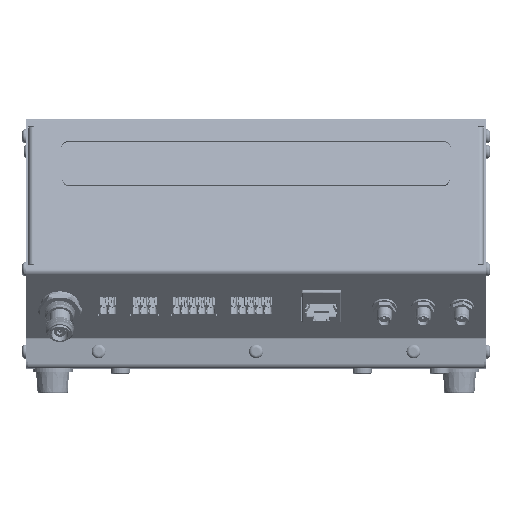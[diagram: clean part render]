
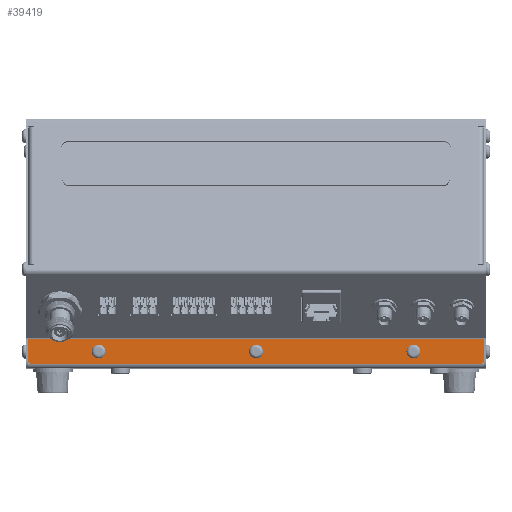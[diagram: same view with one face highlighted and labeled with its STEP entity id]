
A CAD part, top view. The second image highlights one B-rep face of the part: STEP entity #39419.
In plain terms, the highlighted planar face has unit normal (0, 0, 1) as drawn and (1, 0, 0) by its records, which use the part's own axes.
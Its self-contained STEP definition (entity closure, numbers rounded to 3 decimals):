
#638 = EDGE_CURVE ( 'NONE', #5292, #113440, #92095, .T. ) ;
#1989 = EDGE_CURVE ( 'NONE', #106841, #39961, #5558, .T. ) ;
#3515 = AXIS2_PLACEMENT_3D ( 'NONE', #82680, #122074, #72983 ) ;
#3840 = EDGE_LOOP ( 'NONE', ( #40883, #121966, #103865, #81284, #32421, #113417 ) ) ;
#4314 = LINE ( 'NONE', #43752, #8060 ) ;
#5292 = VERTEX_POINT ( 'NONE', #119694 ) ;
#5558 = CIRCLE ( 'NONE', #3515, 1.6 ) ;
#7956 = CARTESIAN_POINT ( 'NONE',  ( -12., 8., 65. ) ) ;
#8060 = VECTOR ( 'NONE', #32152, 1000. ) ;
#8322 = EDGE_CURVE ( 'NONE', #81340, #77313, #43477, .T. ) ;
#9600 = DIRECTION ( 'NONE',  ( 0., -1., 0. ) ) ;
#10329 = EDGE_CURVE ( 'NONE', #115459, #89140, #115977, .T. ) ;
#15088 = EDGE_LOOP ( 'NONE', ( #111130, #92071 ) ) ;
#15221 = CARTESIAN_POINT ( 'NONE',  ( -12., 13.118, -94. ) ) ;
#15253 = CARTESIAN_POINT ( 'NONE',  ( -12., 8., 0. ) ) ;
#15655 = EDGE_CURVE ( 'NONE', #38656, #57188, #126862, .T. ) ;
#15953 = CARTESIAN_POINT ( 'NONE',  ( -12., 13.118, 94. ) ) ;
#18257 = DIRECTION ( 'NONE',  ( 0., -1., 0. ) ) ;
#18678 = FACE_BOUND ( 'NONE', #35944, .T. ) ;
#21301 = CARTESIAN_POINT ( 'NONE',  ( -12., 9.6, 65. ) ) ;
#22052 = EDGE_CURVE ( 'NONE', #39961, #106841, #47181, .T. ) ;
#22268 = DIRECTION ( 'NONE',  ( 0., -1., 0. ) ) ;
#24895 = EDGE_CURVE ( 'NONE', #38656, #73248, #4314, .T. ) ;
#25048 = CARTESIAN_POINT ( 'NONE',  ( -12., 13.118, -94. ) ) ;
#28073 = DIRECTION ( 'NONE',  ( 0., 1., 0. ) ) ;
#28351 = FACE_BOUND ( 'NONE', #15088, .T. ) ;
#28784 = AXIS2_PLACEMENT_3D ( 'NONE', #75777, #55781, #18257 ) ;
#31406 = CARTESIAN_POINT ( 'NONE',  ( -12., 9.6, 0. ) ) ;
#32152 = DIRECTION ( 'NONE',  ( 0., 0., 1. ) ) ;
#32236 = AXIS2_PLACEMENT_3D ( 'NONE', #7956, #117107, #126174 ) ;
#32421 = ORIENTED_EDGE ( 'NONE', *, *, #10329, .F. ) ;
#32596 = DIRECTION ( 'NONE',  ( 1., 0., 0. ) ) ;
#34616 = CARTESIAN_POINT ( 'NONE',  ( -12., 6.4, -65. ) ) ;
#35944 = EDGE_LOOP ( 'NONE', ( #106642, #107297 ) ) ;
#36857 = CARTESIAN_POINT ( 'NONE',  ( -12., 9.6, -65. ) ) ;
#37356 = CARTESIAN_POINT ( 'NONE',  ( -12., 8., -65. ) ) ;
#38063 = CARTESIAN_POINT ( 'NONE',  ( -12., 13.118, 94. ) ) ;
#38656 = VERTEX_POINT ( 'NONE', #79829 ) ;
#39073 = CARTESIAN_POINT ( 'NONE',  ( -12., 13.118, 94. ) ) ;
#39082 = AXIS2_PLACEMENT_3D ( 'NONE', #126914, #117221, #28073 ) ;
#39419 = ADVANCED_FACE ( 'NONE', ( #117505, #18678, #28351, #77473 ), #107818, .F. ) ;
#39961 = VERTEX_POINT ( 'NONE', #34616 ) ;
#40126 = EDGE_CURVE ( 'NONE', #77313, #81340, #92771, .T. ) ;
#40883 = ORIENTED_EDGE ( 'NONE', *, *, #24895, .F. ) ;
#41944 = DIRECTION ( 'NONE',  ( 0., 1., 0. ) ) ;
#42824 = ORIENTED_EDGE ( 'NONE', *, *, #1989, .F. ) ;
#43477 = CIRCLE ( 'NONE', #115685, 1.6 ) ;
#43752 = CARTESIAN_POINT ( 'NONE',  ( -12., 3., 100. ) ) ;
#45563 = DIRECTION ( 'NONE',  ( 0., 1., 0. ) ) ;
#46282 = DIRECTION ( 'NONE',  ( 0., 0., -1. ) ) ;
#46396 = DIRECTION ( 'NONE',  ( 0., 1., 0. ) ) ;
#47181 = CIRCLE ( 'NONE', #98725, 1.6 ) ;
#47692 = DIRECTION ( 'NONE',  ( 1., 0., 0. ) ) ;
#51089 = EDGE_CURVE ( 'NONE', #57188, #61572, #86877, .T. ) ;
#52275 = EDGE_CURVE ( 'NONE', #115459, #73248, #84524, .T. ) ;
#52650 = AXIS2_PLACEMENT_3D ( 'NONE', #101709, #32596, #22268 ) ;
#55781 = DIRECTION ( 'NONE',  ( 1., 0., 0. ) ) ;
#57188 = VERTEX_POINT ( 'NONE', #66389 ) ;
#61572 = VERTEX_POINT ( 'NONE', #25048 ) ;
#61744 = VECTOR ( 'NONE', #45563, 1000. ) ;
#64475 = VECTOR ( 'NONE', #97232, 1000. ) ;
#66389 = CARTESIAN_POINT ( 'NONE',  ( -12., 4., -94. ) ) ;
#67294 = EDGE_LOOP ( 'NONE', ( #42824, #67744 ) ) ;
#67744 = ORIENTED_EDGE ( 'NONE', *, *, #22052, .F. ) ;
#72983 = DIRECTION ( 'NONE',  ( 0., 1., 0. ) ) ;
#73248 = VERTEX_POINT ( 'NONE', #101284 ) ;
#73891 = CARTESIAN_POINT ( 'NONE',  ( -12., 13.118, 94. ) ) ;
#75305 = DIRECTION ( 'NONE',  ( 1., 0., 0. ) ) ;
#75777 = CARTESIAN_POINT ( 'NONE',  ( -12., 4., 93. ) ) ;
#77313 = VERTEX_POINT ( 'NONE', #117963 ) ;
#77473 = FACE_OUTER_BOUND ( 'NONE', #3840, .T. ) ;
#79306 = AXIS2_PLACEMENT_3D ( 'NONE', #125221, #47692, #127112 ) ;
#79829 = CARTESIAN_POINT ( 'NONE',  ( -12., 3., -93. ) ) ;
#80935 = VECTOR ( 'NONE', #46282, 1000. ) ;
#81284 = ORIENTED_EDGE ( 'NONE', *, *, #88404, .F. ) ;
#81340 = VERTEX_POINT ( 'NONE', #31406 ) ;
#82680 = CARTESIAN_POINT ( 'NONE',  ( -12., 8., -65. ) ) ;
#84524 = CIRCLE ( 'NONE', #28784, 1. ) ;
#86877 = LINE ( 'NONE', #15221, #61744 ) ;
#88404 = EDGE_CURVE ( 'NONE', #89140, #61572, #115415, .T. ) ;
#89140 = VERTEX_POINT ( 'NONE', #73891 ) ;
#91699 = CIRCLE ( 'NONE', #79306, 1.6 ) ;
#92071 = ORIENTED_EDGE ( 'NONE', *, *, #40126, .F. ) ;
#92095 = CIRCLE ( 'NONE', #32236, 1.6 ) ;
#92683 = AXIS2_PLACEMENT_3D ( 'NONE', #38063, #116869, #9600 ) ;
#92771 = CIRCLE ( 'NONE', #39082, 1.6 ) ;
#97232 = DIRECTION ( 'NONE',  ( 0., 1., 0. ) ) ;
#98725 = AXIS2_PLACEMENT_3D ( 'NONE', #37356, #127093, #46396 ) ;
#101284 = CARTESIAN_POINT ( 'NONE',  ( -12., 3., 93. ) ) ;
#101709 = CARTESIAN_POINT ( 'NONE',  ( -12., 4., -93. ) ) ;
#103865 = ORIENTED_EDGE ( 'NONE', *, *, #51089, .T. ) ;
#106642 = ORIENTED_EDGE ( 'NONE', *, *, #113715, .F. ) ;
#106841 = VERTEX_POINT ( 'NONE', #36857 ) ;
#107297 = ORIENTED_EDGE ( 'NONE', *, *, #638, .F. ) ;
#107818 = PLANE ( 'NONE',  #92683 ) ;
#108892 = CARTESIAN_POINT ( 'NONE',  ( -12., 4., 94. ) ) ;
#111130 = ORIENTED_EDGE ( 'NONE', *, *, #8322, .F. ) ;
#113417 = ORIENTED_EDGE ( 'NONE', *, *, #52275, .T. ) ;
#113440 = VERTEX_POINT ( 'NONE', #21301 ) ;
#113715 = EDGE_CURVE ( 'NONE', #113440, #5292, #91699, .T. ) ;
#115415 = LINE ( 'NONE', #15953, #80935 ) ;
#115459 = VERTEX_POINT ( 'NONE', #108892 ) ;
#115685 = AXIS2_PLACEMENT_3D ( 'NONE', #15253, #75305, #41944 ) ;
#115977 = LINE ( 'NONE', #39073, #64475 ) ;
#116869 = DIRECTION ( 'NONE',  ( -1., 0., 0. ) ) ;
#117107 = DIRECTION ( 'NONE',  ( 1., 0., 0. ) ) ;
#117221 = DIRECTION ( 'NONE',  ( 1., 0., 0. ) ) ;
#117505 = FACE_BOUND ( 'NONE', #67294, .T. ) ;
#117963 = CARTESIAN_POINT ( 'NONE',  ( -12., 6.4, 0. ) ) ;
#119694 = CARTESIAN_POINT ( 'NONE',  ( -12., 6.4, 65. ) ) ;
#121966 = ORIENTED_EDGE ( 'NONE', *, *, #15655, .T. ) ;
#122074 = DIRECTION ( 'NONE',  ( 1., 0., 0. ) ) ;
#125221 = CARTESIAN_POINT ( 'NONE',  ( -12., 8., 65. ) ) ;
#126174 = DIRECTION ( 'NONE',  ( 0., 1., 0. ) ) ;
#126862 = CIRCLE ( 'NONE', #52650, 1. ) ;
#126914 = CARTESIAN_POINT ( 'NONE',  ( -12., 8., 0. ) ) ;
#127093 = DIRECTION ( 'NONE',  ( 1., 0., 0. ) ) ;
#127112 = DIRECTION ( 'NONE',  ( 0., 1., 0. ) ) ;
